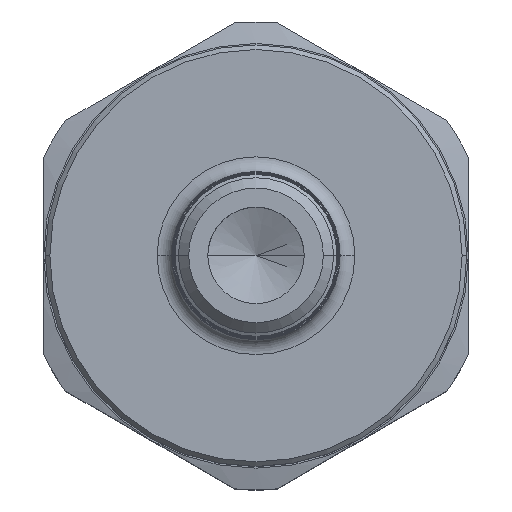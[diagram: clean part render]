
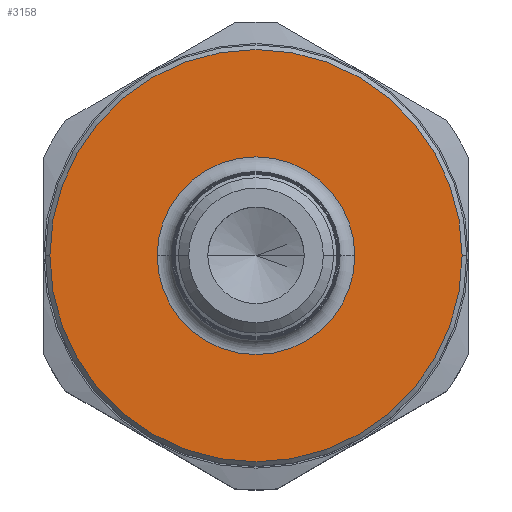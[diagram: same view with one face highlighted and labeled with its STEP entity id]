
A CAD part, top view. The second image highlights one B-rep face of the part: STEP entity #3158.
In plain terms, the highlighted planar face has unit normal (0, 0, 1) as drawn and (-1, 0, 0) by its records, which use the part's own axes.
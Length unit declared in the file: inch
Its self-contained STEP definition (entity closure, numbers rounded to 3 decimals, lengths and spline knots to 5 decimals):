
#311 = CARTESIAN_POINT ( 'NONE',  ( -2.395, 0., 0.32 ) ) ;
#386 = DIRECTION ( 'NONE',  ( 1., 0., 0. ) ) ;
#436 = EDGE_CURVE ( 'NONE', #3955, #2814, #3713, .T. ) ;
#472 = EDGE_LOOP ( 'NONE', ( #3888, #3019 ) ) ;
#493 = CARTESIAN_POINT ( 'NONE',  ( -2.395, 0., -0.32 ) ) ;
#546 = CIRCLE ( 'NONE', #765, 0.6675 ) ;
#765 = AXIS2_PLACEMENT_3D ( 'NONE', #1162, #2803, #3839 ) ;
#766 = AXIS2_PLACEMENT_3D ( 'NONE', #4084, #2416, #3088 ) ;
#861 = EDGE_CURVE ( 'NONE', #2814, #3955, #3920, .T. ) ;
#910 = VERTEX_POINT ( 'NONE', #3109 ) ;
#1031 = DIRECTION ( 'NONE',  ( -1., 0., 0. ) ) ;
#1162 = CARTESIAN_POINT ( 'NONE',  ( -2.395, 0., 0. ) ) ;
#1268 = EDGE_LOOP ( 'NONE', ( #3750, #2246 ) ) ;
#1280 = FACE_OUTER_BOUND ( 'NONE', #472, .T. ) ;
#1325 = AXIS2_PLACEMENT_3D ( 'NONE', #2950, #2649, #1955 ) ;
#1373 = DIRECTION ( 'NONE',  ( 0., 0., 1. ) ) ;
#1667 = CIRCLE ( 'NONE', #3810, 0.6675 ) ;
#1955 = DIRECTION ( 'NONE',  ( 0., 0., 1. ) ) ;
#2037 = VERTEX_POINT ( 'NONE', #2450 ) ;
#2246 = ORIENTED_EDGE ( 'NONE', *, *, #436, .T. ) ;
#2416 = DIRECTION ( 'NONE',  ( 1., 0., 0. ) ) ;
#2450 = CARTESIAN_POINT ( 'NONE',  ( -2.395, 0., 0.6675 ) ) ;
#2546 = EDGE_CURVE ( 'NONE', #910, #2037, #1667, .T. ) ;
#2600 = PLANE ( 'NONE',  #1325 ) ;
#2621 = FACE_BOUND ( 'NONE', #1268, .T. ) ;
#2649 = DIRECTION ( 'NONE',  ( -1., 0., 0. ) ) ;
#2697 = AXIS2_PLACEMENT_3D ( 'NONE', #3138, #386, #1373 ) ;
#2761 = DIRECTION ( 'NONE',  ( 0., 0., 1. ) ) ;
#2803 = DIRECTION ( 'NONE',  ( -1., 0., 0. ) ) ;
#2814 = VERTEX_POINT ( 'NONE', #311 ) ;
#2950 = CARTESIAN_POINT ( 'NONE',  ( -2.395, 0.75, 0. ) ) ;
#3019 = ORIENTED_EDGE ( 'NONE', *, *, #3069, .T. ) ;
#3069 = EDGE_CURVE ( 'NONE', #2037, #910, #546, .T. ) ;
#3088 = DIRECTION ( 'NONE',  ( 0., 0., 1. ) ) ;
#3109 = CARTESIAN_POINT ( 'NONE',  ( -2.395, 0., -0.6675 ) ) ;
#3138 = CARTESIAN_POINT ( 'NONE',  ( -2.395, 0., 0. ) ) ;
#3158 = ADVANCED_FACE ( 'NONE', ( #2621, #1280 ), #2600, .T. ) ;
#3713 = CIRCLE ( 'NONE', #2697, 0.32 ) ;
#3750 = ORIENTED_EDGE ( 'NONE', *, *, #861, .T. ) ;
#3806 = CARTESIAN_POINT ( 'NONE',  ( -2.395, 0., 0. ) ) ;
#3810 = AXIS2_PLACEMENT_3D ( 'NONE', #3806, #1031, #2761 ) ;
#3839 = DIRECTION ( 'NONE',  ( 0., 0., 1. ) ) ;
#3888 = ORIENTED_EDGE ( 'NONE', *, *, #2546, .T. ) ;
#3920 = CIRCLE ( 'NONE', #766, 0.32 ) ;
#3955 = VERTEX_POINT ( 'NONE', #493 ) ;
#4084 = CARTESIAN_POINT ( 'NONE',  ( -2.395, 0., 0. ) ) ;
